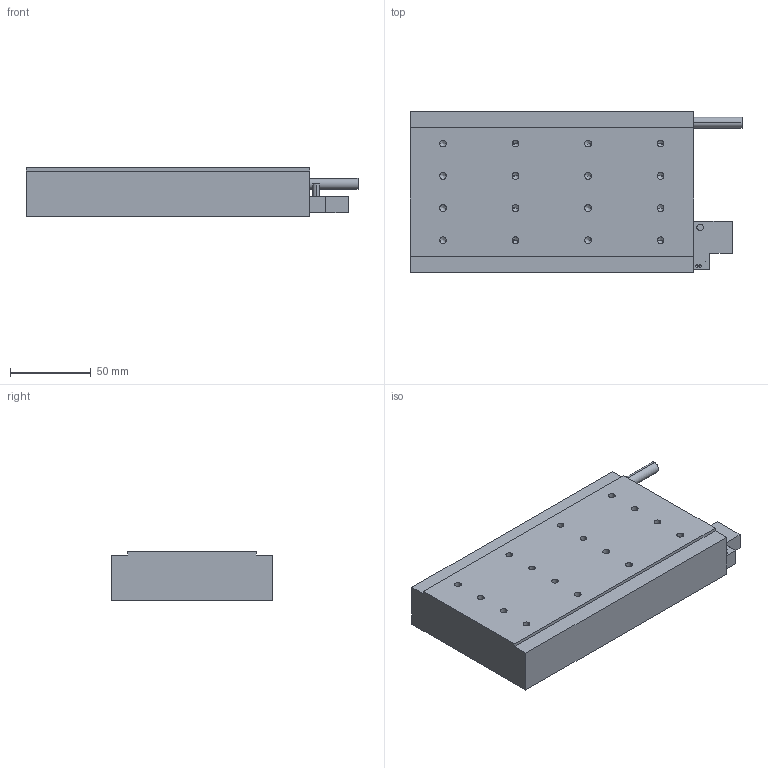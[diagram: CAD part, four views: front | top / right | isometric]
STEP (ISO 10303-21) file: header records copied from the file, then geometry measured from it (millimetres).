
FILE_DESCRIPTION (( 'STEP AP214' ), '1' );
FILE_NAME ('FLT-100-176（带霍尔）.STEP', '2022-04-13T09:26:53', ( 'Microsoft' ), ( 'Microsoft' ), 'SwSTEP 2.0', 'SolidWorks 2016', '' );
FILE_SCHEMA (( 'AUTOMOTIVE_DESIGN' ));
Length unit declared in the file: millimetre
Products named in the file (3): FLT齊嫌耀倰芞; FLT-100-176; FLT-100-176（带霍尔）
Assembly tree (2 placements, depth 2):
  FLT-100-176（带霍尔）
    FLT齊嫌耀倰芞
    FLT-100-176
Bounding box: 206 x 100 x 30 mm (x, y, z)
Volume: 526288 mm3; surface area: 56250.5 mm2
Topology: 2 solids, 2 shells, 114 faces, 278 edges, 152 vertices
Faces by surface type: cylinder 52, cone 40, plane 22
Entity records: 3560 total; most frequent: DIRECTION 580, CARTESIAN_POINT 509, ORIENTED_EDGE 476, EDGE_CURVE 238, AXIS2_PLACEMENT_3D 223, VERTEX_POINT 152, EDGE_LOOP 142, LINE 134
